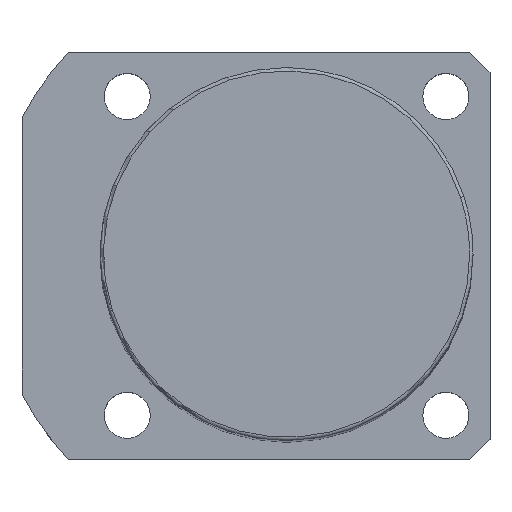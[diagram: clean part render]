
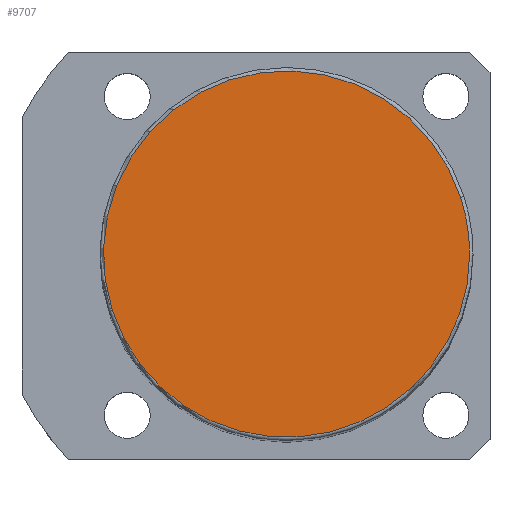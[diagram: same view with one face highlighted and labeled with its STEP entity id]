
A CAD part, top view. The second image highlights one B-rep face of the part: STEP entity #9707.
In plain terms, the highlighted planar face has unit normal (0, 0, 1).
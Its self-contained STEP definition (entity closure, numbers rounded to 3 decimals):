
#9673=CARTESIAN_POINT('',(27.0,0.0,166.0));
#9674=VERTEX_POINT('',#9673);
#9675=CARTESIAN_POINT('',(25.679,8.343,166.0));
#9676=VERTEX_POINT('',#9675);
#9677=CARTESIAN_POINT('',(0.0,0.0,166.0));
#9678=DIRECTION('',(0.0,0.0,1.0));
#9679=DIRECTION('',(1.0,0.0,0.0));
#9680=AXIS2_PLACEMENT_3D('',#9677,#9678,#9679);
#9681=CIRCLE('',#9680,27.0);
#9682=EDGE_CURVE('no 4532',#9674,#9676,#9681,.T.);
#9683=ORIENTED_EDGE('',*,*,#9682,.T.);
#9684=CARTESIAN_POINT('',(-25.679,-8.343,166.0));
#9685=VERTEX_POINT('',#9684);
#9686=CARTESIAN_POINT('',(0.0,0.0,166.0));
#9687=DIRECTION('',(0.0,0.0,1.0));
#9688=DIRECTION('',(1.0,0.0,0.0));
#9689=AXIS2_PLACEMENT_3D('',#9686,#9687,#9688);
#9690=CIRCLE('',#9689,27.0);
#9691=EDGE_CURVE('no 4538',#9676,#9685,#9690,.T.);
#9692=ORIENTED_EDGE('',*,*,#9691,.T.);
#9693=CARTESIAN_POINT('',(0.0,0.0,166.0));
#9694=DIRECTION('',(0.0,0.0,1.0));
#9695=DIRECTION('',(1.0,0.0,0.0));
#9696=AXIS2_PLACEMENT_3D('',#9693,#9694,#9695);
#9697=CIRCLE('',#9696,27.0);
#9698=EDGE_CURVE('no 4542',#9685,#9674,#9697,.T.);
#9699=ORIENTED_EDGE('',*,*,#9698,.T.);
#9700=EDGE_LOOP('',(#9683,#9692,#9699));
#9701=FACE_OUTER_BOUND('',#9700,.T.);
#9702=CARTESIAN_POINT('',(0.0,0.0,166.0));
#9703=DIRECTION('',(0.0,0.0,1.0));
#9704=DIRECTION('',(1.0,0.0,0.0));
#9705=AXIS2_PLACEMENT_3D('',#9702,#9703,#9704);
#9706=PLANE('',#9705);
#9707=ADVANCED_FACE('no 4523',(#9701),#9706,.T.);
